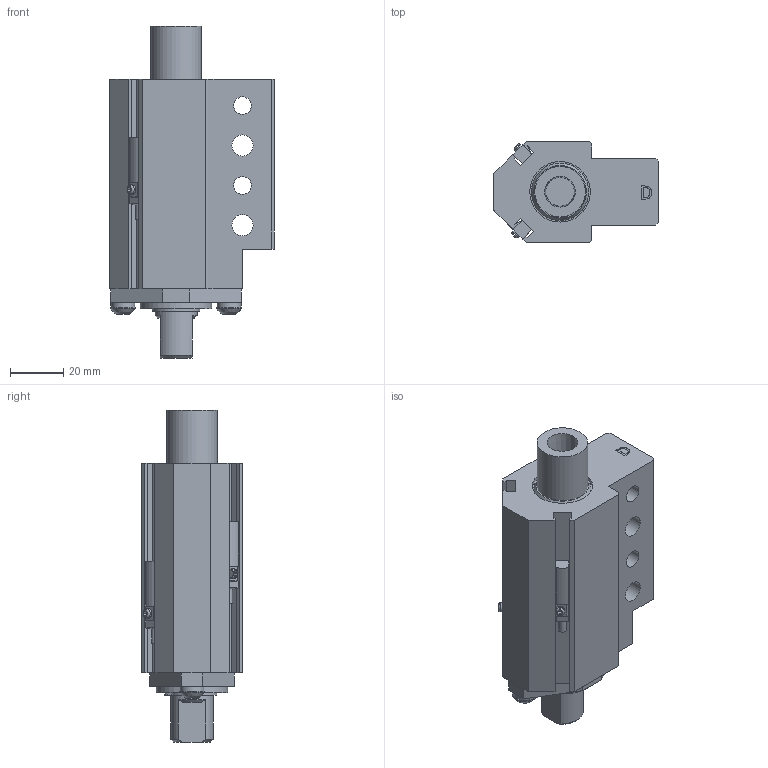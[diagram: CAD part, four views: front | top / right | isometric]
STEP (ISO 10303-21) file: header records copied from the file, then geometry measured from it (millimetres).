
FILE_DESCRIPTION(/* description */ ('MINI PASS THRU GROUND BLOCK'),/* implementation_level */ '2;1');
FILE_NAME(/* name */ 'C:\Vault Workspace\CAD\Welker\Cylinders\GBM\GBM0DL3.stp',/* time_stamp */ '2021-06-24T14:23:37-04:00',/* author */ ('KPL'),/* organization */ (''),/* preprocessor_version */ 'ST-DEVELOPER v18.1',/* originating_system */ 'Autodesk Inventor 2020',/* authorisation */ '');
FILE_SCHEMA (('AUTOMOTIVE_DESIGN { 1 0 10303 214 3 1 1 }'));
Products named in the file (10): GBML01; 91590A126; 96100A152; L3 Sensor 1; M5X0.8-10 BHCS; NL5; GBME01D; GBME02; GBME04; AN-05U2145
Assembly tree (12 placements, depth 2):
  GBML01
    91590A126
    96100A152
    L3 Sensor 1  x2
    M5X0.8-10 BHCS  x2
    NL5  x2
    GBME01D
    GBME02
    GBME04
    AN-05U2145
Bounding box: 62 x 38.1 x 125 mm (x, y, z)
Volume: 125572.5 mm3; surface area: 46340.6 mm2
Topology: 12 solids, 12 shells, 425 faces, 1168 edges, 778 vertices
Faces by surface type: plane 301, cylinder 93, cone 15, bspline 10, torus 4, sphere 2
Full cylindrical faces by diameter (mm): 1.194 x2, 2.9 x2, 4.134 x2, 5 x2, 5.4 x2, 5.5 x2, 6.647 x3, 8 x2, 9 x2, 9.5 x2, 14.935 x1, 15.875 x3, 16.383 x1, 19.05 x1, 19.177 x1, 22.225 x2, 22.784 x1, 24.613 x1, 25.654 x1, 25.705 x1, 26.987 x1, 28.591 x1, 28.667 x1
Entity records: 9598 total; most frequent: CARTESIAN_POINT 1776, DIRECTION 1544, ORIENTED_EDGE 1520, EDGE_CURVE 760, AXIS2_PLACEMENT_3D 521, VERTEX_POINT 515, LINE 502, VECTOR 502
